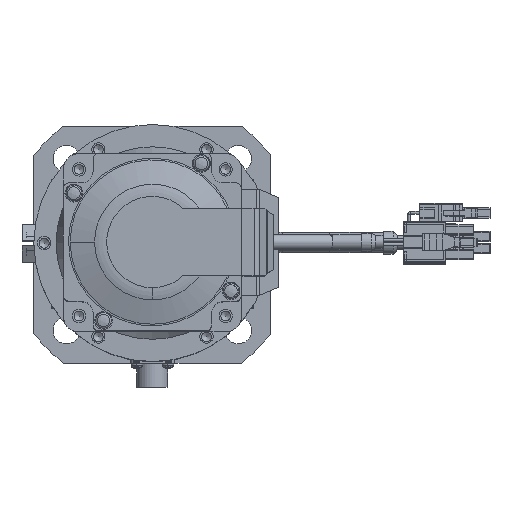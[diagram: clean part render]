
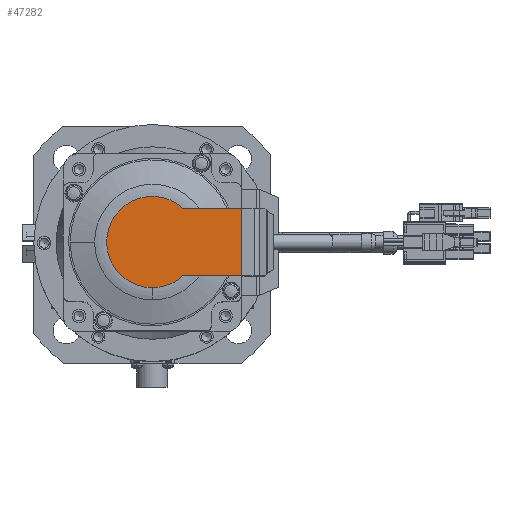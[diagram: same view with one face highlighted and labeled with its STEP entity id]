
A CAD part, top view. The second image highlights one B-rep face of the part: STEP entity #47282.
In plain terms, the highlighted planar face has unit normal (0, 0, 1).
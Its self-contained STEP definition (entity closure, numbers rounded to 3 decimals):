
#39232=CARTESIAN_POINT('',(30.554,11.764,462.5));
#39233=VERTEX_POINT('',#39232);
#39240=CARTESIAN_POINT('',(30.554,-11.136,462.5));
#39241=VERTEX_POINT('',#39240);
#39242=CARTESIAN_POINT('',(30.554,11.764,462.5));
#39243=DIRECTION('',(0.,-1.,0.));
#39244=VECTOR('',#39243,22.9);
#39245=LINE('',#39242,#39244);
#39246=EDGE_CURVE('',#39233,#39241,#39245,.T.);
#39517=CARTESIAN_POINT('',(10.872,-11.136,462.5));
#39518=VERTEX_POINT('',#39517);
#39539=CARTESIAN_POINT('',(30.554,-11.136,462.5));
#39540=DIRECTION('',(-1.,0.,0.));
#39541=VECTOR('',#39540,19.683);
#39542=LINE('',#39539,#39541);
#39543=EDGE_CURVE('',#39241,#39518,#39542,.T.);
#39555=CARTESIAN_POINT('',(10.872,11.764,462.5));
#39556=VERTEX_POINT('',#39555);
#39566=CARTESIAN_POINT('',(10.872,11.764,462.5));
#39567=DIRECTION('',(1.,0.,0.));
#39568=VECTOR('',#39567,19.683);
#39569=LINE('',#39566,#39568);
#39570=EDGE_CURVE('',#39556,#39233,#39569,.T.);
#39590=CARTESIAN_POINT('',(0.554,-15.099,462.5));
#39591=VERTEX_POINT('',#39590);
#39592=CARTESIAN_POINT('',(0.554,0.314,462.5));
#39593=DIRECTION('',(0.669,-0.743,0.));
#39594=DIRECTION('',(0.,0.,-1.));
#39595=AXIS2_PLACEMENT_3D('',#39592,#39594,#39593);
#39596=CIRCLE('',#39595,15.413);
#39597=EDGE_CURVE('',#39518,#39591,#39596,.T.);
#39641=CARTESIAN_POINT('',(0.554,0.314,462.5));
#39642=DIRECTION('',(0.,-1.,0.));
#39643=DIRECTION('',(0.,0.,-1.));
#39644=AXIS2_PLACEMENT_3D('',#39641,#39643,#39642);
#39645=CIRCLE('',#39644,15.413);
#39646=EDGE_CURVE('',#39591,#39556,#39645,.T.);
#47270=CARTESIAN_POINT('',(7.848,0.314,462.5));
#47271=DIRECTION('',(0.,1.,0.));
#47272=DIRECTION('',(0.,-0.,1.));
#47273=AXIS2_PLACEMENT_3D('',#47270,#47272,#47271);
#47274=PLANE('',#47273);
#47275=ORIENTED_EDGE('',*,*,#39646,.F.);
#47276=ORIENTED_EDGE('',*,*,#39597,.F.);
#47277=ORIENTED_EDGE('',*,*,#39543,.F.);
#47278=ORIENTED_EDGE('',*,*,#39246,.F.);
#47279=ORIENTED_EDGE('',*,*,#39570,.F.);
#47280=EDGE_LOOP('',(#47275,#47276,#47277,#47278,#47279));
#47281=FACE_OUTER_BOUND('',#47280,.T.);
#47282=ADVANCED_FACE('F394',(#47281),#47274,.T.);
